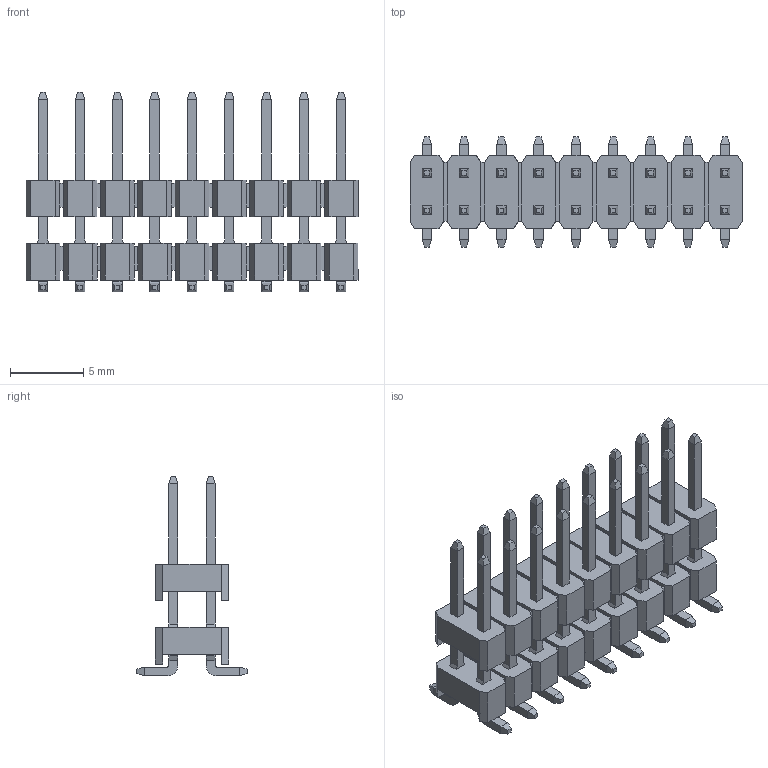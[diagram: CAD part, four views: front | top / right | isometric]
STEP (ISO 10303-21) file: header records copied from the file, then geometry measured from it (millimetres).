
FILE_DESCRIPTION (( 'STEP AP203' ), '1' );
FILE_NAME ('2012-2x09G00D-6-13.6B-1110506.STEP', '2022-05-06T07:56:35', ( '' ), ( '' ), 'SwSTEP 2.0', 'SolidWorks 2019', '' );
FILE_SCHEMA (( 'CONFIG_CONTROL_DESIGN' ));
Length unit declared in the file: millimetre
Products named in the file (2): 2012-2x09G00D-6-13.6B-1110506
Assembly tree (1 placements, depth 2):
  2012-2x09G00D-6-13.6B-1110506
    2012-2x09G00D-6-13.6B-1110506
Bounding box: 22.61 x 7.5 x 13.6 mm (x, y, z)
Volume: 496.9 mm3; surface area: 1591 mm2
Topology: 53 solids, 53 shells, 1138 faces, 2708 edges, 1712 vertices
Faces by surface type: plane 1102, cylinder 36
Entity records: 31940 total; most frequent: CARTESIAN_POINT 5562, ORIENTED_EDGE 5416, DIRECTION 5064, EDGE_CURVE 2708, LINE 2636, VECTOR 2636, VERTEX_POINT 1712, AXIS2_PLACEMENT_3D 1214
